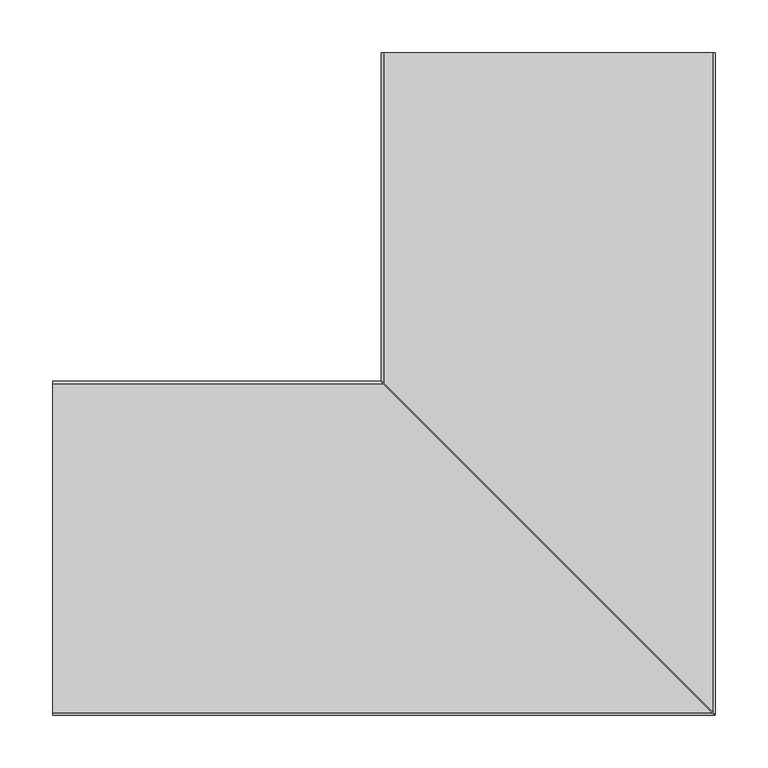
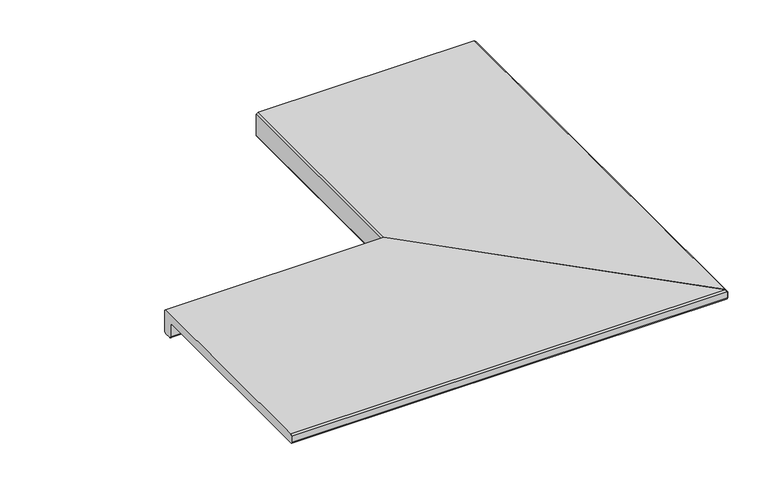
"""IFC4 building model written with IfcOpenShell, lengths in millimetres: proxy geometry, ROSA GRES_E62 : Pieza E62_Pietro_White_Anti-Slip."""

import ifcopenshell
import ifcopenshell.guid

model = None  # the IFC model being written
_history = None  # IfcOwnerHistory: only IFC2X3 demands one
_inside = {}  # id of a spatial element -> (the spatial element, [elements in it])
_under = {}  # id of a project, library or spatial element -> (it, [spatial elements below it])
_declared = {}  # id of a project -> (the project, [libraries it declares])
_typed = {}  # id of a type object -> (the type object, [elements of that type])
_made_of = {}  # id of a material, layer set ... -> (it, [elements and type objects made of it])


def new_model(schema):
    """Start an empty IFC model of exactly this schema.

    Asked for "IFC4X3", IfcOpenShell would pick the latest addendum, in which some entities
    have other attributes; the version numbers below select the first issue.
    IFC2X3 requires an IfcOwnerHistory on every rooted entity: one is made here for all.
    """
    global model, _history
    if schema == "IFC4X3":
        model = ifcopenshell.file(schema_version=(4, 3, 0, 0))
    else:
        model = ifcopenshell.file(schema=schema)
    _inside.clear()
    _under.clear()
    _declared.clear()
    _typed.clear()
    _made_of.clear()
    _history = None
    if model.schema == "IFC2X3":
        org = make("IfcOrganization", Name="unknown")
        user = make(
            "IfcPersonAndOrganization",
            ThePerson=make("IfcPerson", FamilyName="unknown"),
            TheOrganization=org,
        )
        app = make(
            "IfcApplication",
            ApplicationDeveloper=org,
            Version="unknown",
            ApplicationFullName="unknown",
            ApplicationIdentifier="unknown",
        )
        _history = make(
            "IfcOwnerHistory",
            OwningUser=user,
            OwningApplication=app,
            ChangeAction="ADDED",
            CreationDate=0,
        )
    return model


def make(cls, **values):
    """One entity of the class cls with the attributes given. An attribute that is None is left unset."""
    return model.create_entity(
        cls, **{name: value for name, value in values.items() if value is not None}
    )


def rooted(cls, **values):
    """An entity with a GlobalId (a new one), such as an element, a storey or a relation."""
    return make(cls, GlobalId=ifcopenshell.guid.new(), OwnerHistory=_history, **values)


def si_unit(unit_type, name, prefix=None):
    """IfcSIUnit, for example si_unit("LENGTHUNIT", "METRE", prefix="MILLI")."""
    return make("IfcSIUnit", UnitType=unit_type, Prefix=prefix, Name=name)


def assignment(units):
    """IfcUnitAssignment: the units of a project."""
    return None if units is None else make("IfcUnitAssignment", Units=units)


def point(xyz):
    """IfcCartesianPoint."""
    return None if xyz is None else make("IfcCartesianPoint", Coordinates=xyz)


def direction(xyz):
    """IfcDirection."""
    return None if xyz is None else make("IfcDirection", DirectionRatios=xyz)


def frame(location, z_axis=None, x_axis=None):
    """IfcAxis2Placement3D, a coordinate frame: its origin and axes. An axis left out is left unset."""
    return make(
        "IfcAxis2Placement3D",
        Location=point(location),
        Axis=direction(z_axis),
        RefDirection=direction(x_axis),
    )


def origin():
    """The frame at (0, 0, 0) with its axes left unset."""
    return frame((0.0, 0.0, 0.0))


def place(relative_to, where):
    """IfcLocalPlacement: puts the frame where relative to a parent placement (None: the world)."""
    return make(
        "IfcLocalPlacement", PlacementRelTo=relative_to, RelativePlacement=where
    )


def context(
    kind, dimensions, precision=None, world=None, true_north=None, identifier=None
):
    """IfcGeometricRepresentationContext, for example the 3D "Model" context."""
    return make(
        "IfcGeometricRepresentationContext",
        ContextIdentifier=identifier,
        ContextType=kind,
        CoordinateSpaceDimension=dimensions,
        Precision=precision,
        WorldCoordinateSystem=world,
        TrueNorth=true_north,
    )


def project(units=None, contexts=None):
    """IfcProject with its units and contexts."""
    return rooted(
        "IfcProject",
        Name="project",
        RepresentationContexts=contexts,
        UnitsInContext=assignment(units),
    )


def spatial(cls, under=None, at=None, **own):
    """A site, building, storey or space (cls), placed at a placement, below another one or the project."""
    s = rooted(cls, ObjectPlacement=at, **own)
    if under is not None:
        _under.setdefault(under.id(), (under, []))[1].append(s)
    return s


def polyline(points):
    """IfcPolyline through the points."""
    return make("IfcPolyline", Points=[point(p) for p in points])


def circle_curve(where, radius):
    """IfcCircle in the frame where."""
    return make("IfcCircle", Position=where, Radius=radius)


def ellipse_curve(where, semi_axis1, semi_axis2):
    """IfcEllipse in the frame where."""
    return make(
        "IfcEllipse", Position=where, SemiAxis1=semi_axis1, SemiAxis2=semi_axis2
    )


def shape(context_of_items, identifier, shape_type, items):
    """IfcShapeRepresentation: the items that make up one representation, for example the "Body"."""
    return make(
        "IfcShapeRepresentation",
        ContextOfItems=context_of_items,
        RepresentationIdentifier=identifier,
        RepresentationType=shape_type,
        Items=items,
    )


def source(mapping_origin, context_of_items, identifier, shape_type, items):
    """IfcRepresentationMap: a shape defined once, which mapped items show again and again."""
    return make(
        "IfcRepresentationMap",
        MappingOrigin=mapping_origin,
        MappedRepresentation=shape(context_of_items, identifier, shape_type, items),
    )


def transform(
    local_origin,
    x_axis=None,
    y_axis=None,
    z_axis=None,
    scale=None,
    scale2=None,
    scale3=None,
    uniform=True,
):
    """IfcCartesianTransformationOperator3D, or its non-uniform kind. x_axis, y_axis, z_axis: its Axis1, 2, 3."""
    if uniform:
        return make(
            "IfcCartesianTransformationOperator3D",
            Axis1=direction(x_axis),
            Axis2=direction(y_axis),
            LocalOrigin=point(local_origin),
            Scale=scale,
            Axis3=direction(z_axis),
        )
    return make(
        "IfcCartesianTransformationOperator3DnonUniform",
        Axis1=direction(x_axis),
        Axis2=direction(y_axis),
        LocalOrigin=point(local_origin),
        Scale=scale,
        Axis3=direction(z_axis),
        Scale2=scale2,
        Scale3=scale3,
    )


def mapped(mapping_source, mapping_target):
    """IfcMappedItem: shows the shape of a source again, moved by a transform."""
    return make(
        "IfcMappedItem", MappingSource=mapping_source, MappingTarget=mapping_target
    )


def made_of(thing, what):
    """Note that an element or type object is made of a material, layer set ...; save() writes the relation."""
    if what is not None:
        _made_of.setdefault(what.id(), (what, []))[1].append(thing)
    return thing


def element(
    cls,
    number,
    at=None,
    inside=None,
    cuts=None,
    type_object=None,
    material=None,
    context=None,
    identifier="Body",
    shape_type=None,
    held_by="IfcProductDefinitionShape",
    body=None,
    shapes=None,
    **own,
):
    """One element of the class cls, such as IfcWall. Its Tag is "e" and its number.

    at: its placement. inside: the storey or other place that contains it. cuts: it is an
    opening in that element (IfcRelVoidsElement). A single representation is given by context,
    identifier, shape_type and body (its items); several are given by shapes. held_by: the class
    of the entity that holds the representations. save() writes the other relations.
    """
    e = rooted(cls, Tag="e%d" % number, ObjectPlacement=at, **own)
    if body is not None:
        shapes = [shape(context, identifier, shape_type, body)]
    if shapes is not None:
        e.Representation = make(held_by, Representations=shapes)
    if inside is not None:
        _inside.setdefault(inside.id(), (inside, []))[1].append(e)
    if cuts is not None:
        rooted(
            "IfcRelVoidsElement", RelatingBuildingElement=cuts, RelatedOpeningElement=e
        )
    if type_object is not None:
        _typed.setdefault(type_object.id(), (type_object, []))[1].append(e)
    return made_of(e, material)


def aggregate(whole, parts):
    """IfcRelAggregates: a whole, such as a stair, and the parts it consists of."""
    return rooted("IfcRelAggregates", RelatingObject=whole, RelatedObjects=parts)


def save(model, path):
    """Write the relations noted so far, then the file.

    IfcRelAggregates (storeys below a building ...), IfcRelContainedInSpatialStructure (elements
    in a storey), IfcRelDefinesByType, IfcRelAssociatesMaterial and IfcRelDeclares: one each for
    every whole, place, type object, material and project.
    """
    for whole, parts in _under.values():
        aggregate(whole, parts)
    for where, things in _inside.values():
        rooted(
            "IfcRelContainedInSpatialStructure",
            RelatedElements=things,
            RelatingStructure=where,
        )
    for kind, things in _typed.values():
        rooted("IfcRelDefinesByType", RelatedObjects=things, RelatingType=kind)
    for what, things in _made_of.values():
        rooted("IfcRelAssociatesMaterial", RelatedObjects=things, RelatingMaterial=what)
    for by, libraries in _declared.values():
        rooted("IfcRelDeclares", RelatingContext=by, RelatedDefinitions=libraries)
    model.write(path)


def plane_surface(at):
    """IfcPlane: the flat surface through the origin of the frame at, square to its z axis."""
    return make("IfcPlane", Position=at)


def cylinder_surface(at, radius):
    """IfcCylindricalSurface: all points at the distance radius from the z axis of the frame at."""
    return make("IfcCylindricalSurface", Position=at, Radius=radius)


def revolved_surface(curve, axis_point, axis_direction):
    """IfcSurfaceOfRevolution: the curve turned about the line through axis_point along axis_direction."""
    return make(
        "IfcSurfaceOfRevolution",
        SweptCurve=make("IfcArbitraryOpenProfileDef", ProfileType="CURVE", Curve=curve),
        AxisPosition=make("IfcAxis1Placement", Location=point(axis_point), Axis=direction(axis_direction)),
    )


def advanced_brep(points, edges, surfaces, faces):
    """IfcAdvancedBrep: a solid bounded by faces that lie on surfaces and meet in shared edges.

    An edge is (start, end): straight between two places in points (the first is 0);
    or (start, end, curve); or (start, end, curve, False) where it runs against its curve.
    A face is (place in surfaces, loops), or (place, loops, False) where it looks against
    its surface's normal. A loop lists edges by number (the first is 1), with a minus sign
    where the edge is run from its end to its start. The first loop is the outer one.
    """
    corners = [point(p) for p in points]
    vertices = [make("IfcVertexPoint", VertexGeometry=c) for c in corners]
    made = []
    for start, end, *more in edges:
        made.append(
            make(
                "IfcEdgeCurve",
                EdgeStart=vertices[start],
                EdgeEnd=vertices[end],
                EdgeGeometry=more[0] if more else make("IfcPolyline", Points=[corners[start], corners[end]]),
                SameSense=more[1] if len(more) > 1 else True,
            )
        )
    hull = []
    for where, loops, *sense in faces:
        bounds = []
        for j, loop in enumerate(loops):
            ring = [make("IfcOrientedEdge", EdgeElement=made[abs(k) - 1], Orientation=k > 0) for k in loop]
            bounds.append(
                make(
                    "IfcFaceOuterBound" if j == 0 else "IfcFaceBound",
                    Bound=make("IfcEdgeLoop", EdgeList=ring),
                    Orientation=True,
                )
            )
        hull.append(make("IfcAdvancedFace", Bounds=bounds, FaceSurface=surfaces[where], SameSense=sense[0] if sense else True))
    return make("IfcAdvancedBrep", Outer=make("IfcClosedShell", CfsFaces=hull))


def generic_models_a661fb60(model_context):
    return source(origin(), model_context, "Body", "AdvancedBrep", [
        advanced_brep(
        [(-625.5203405, 313.4938651, -34.5), (-625.5203405, 310.9938651, -37.0), (-625.5203405, 301.9938651, -37.0), (-625.5203405, 299.4938651, -34.5), (-625.5203405, 299.4938651, -16.5), (-625.5203405, 296.9938651, -14.0), (-625.5203405, -1.0061349, -14.0), (-625.5203405, -3.5061349, -11.5), (-625.5203405, -3.5061349, -2.5), (-625.5203405, -1.0061349, 0.0), (-625.5203405, 310.9938651, 0.0), (-625.5203405, 313.4938651, -2.5), (-314.1999893, 313.4938651, -2.5), (-314.1999893, 313.4938651, -34.5), (0.3000107, -1.0061349, 0.0), (-311.6999893, 310.9938651, 0.0), (2.8000107, -3.5061349, -11.5), (2.8000107, -3.5061349, -2.5), (0.3000107, -1.0061349, -14.0), (-297.6999893, 296.9938651, -14.0), (-300.1999893, 299.4938651, -16.5), (-300.1999893, 299.4938651, -34.5), (-302.6999893, 301.9938651, -37.0), (-311.6999893, 310.9938651, -37.0)],
        [
            (0, 1, circle_curve(frame((-625.5203405, 310.9938651, -34.5), z_axis=(-1.0, 0.0, 0.0), x_axis=(0.0, 0.0, -1.0)), 2.5)),
            (1, 2),
            (2, 3, circle_curve(frame((-625.5203405, 301.9938651, -34.5), z_axis=(-1.0, 0.0, 0.0), x_axis=(0.0, 0.0, -1.0)), 2.5)),
            (3, 4),
            (4, 5, circle_curve(frame((-625.5203405, 296.9938651, -16.5), z_axis=(1.0, 0.0, 0.0), x_axis=(0.0, 0.0, -1.0)), 2.5)),
            (5, 6),
            (6, 7, circle_curve(frame((-625.5203405, -1.0061349, -11.5), z_axis=(-1.0, 0.0, 0.0), x_axis=(0.0, 0.0, -1.0)), 2.5)),
            (7, 8),
            (8, 9),
            (9, 10),
            (10, 11),
            (11, 0),
            (11, 12),
            (12, 13),
            (13, 0),
            (9, 14),
            (14, 15),
            (15, 10),
            (7, 16),
            (16, 17),
            (17, 8),
            (6, 18),
            (18, 16, ellipse_curve(frame((0.3000107, -1.0061349, -11.5), z_axis=(-0.707106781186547, -0.7071067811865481, 0.0), x_axis=(-0.7071067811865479, 0.7071067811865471, 0.0)), 3.5355339, 2.5)),
            (5, 19),
            (19, 18),
            (4, 20),
            (20, 19, ellipse_curve(frame((-297.6999893, 296.9938651, -16.5), z_axis=(0.707106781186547, 0.7071067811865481, 0.0), x_axis=(0.7071067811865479, -0.7071067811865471, 0.0)), 3.5355339, 2.5)),
            (3, 21),
            (21, 20),
            (2, 22),
            (22, 21, ellipse_curve(frame((-302.6999893, 301.9938651, -34.5), z_axis=(-0.707106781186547, -0.7071067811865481, 0.0), x_axis=(-0.7071067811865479, 0.7071067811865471, 0.0)), 3.5355339, 2.5)),
            (13, 23, ellipse_curve(frame((-311.6999893, 310.9938651, -34.5), z_axis=(-0.707106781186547, -0.7071067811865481, 0.0), x_axis=(-0.7071067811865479, 0.7071067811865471, 0.0)), 3.5355339, 2.5)),
            (23, 1),
            (12, 15),
            (14, 17),
            (22, 23),
        ],
        [
            plane_surface(frame((-625.5203405, -0.4796595, 0.0), z_axis=(-1.0, 0.0, 0.0), x_axis=(0.0, 0.0, 1.0))),
            plane_surface(frame((-625.5203405, 313.4938651, -34.5), z_axis=(0.0, 1.0, 0.0), x_axis=(1.0, 0.0, 0.0))),
            plane_surface(frame((-625.5203405, 310.9938651, 0.0), z_axis=(0.0, 0.0, 1.0), x_axis=(1.0, 0.0, 0.0))),
            plane_surface(frame((-625.5203405, -3.5061349, -2.5), z_axis=(0.0, -1.0, 0.0), x_axis=(1.0, 0.0, 0.0))),
            cylinder_surface(frame((-625.5203405, -1.0061349, -11.5), z_axis=(-1.0, 0.0, 0.0), x_axis=(0.0, 0.0, -1.0)), 2.5),
            plane_surface(frame((-625.5203405, -1.0061349, -14.0), z_axis=(0.0, 0.0, -1.0), x_axis=(1.0, 0.0, 0.0))),
            revolved_surface(polyline([(-295.1999893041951, 296.9938651, -19.0), (-625.5203405, 296.9938651, -19.0)]), (-625.5203405, 296.9938651, -16.5), (1.0, 0.0, 0.0)),
            plane_surface(frame((-625.5203405, 299.4938651, -16.5), z_axis=(0.0, -1.0, 0.0), x_axis=(1.0, 0.0, 0.0))),
            cylinder_surface(frame((-625.5203405, 301.9938651, -34.5), z_axis=(-1.0, 0.0, 0.0), x_axis=(0.0, 0.0, -1.0)), 2.5),
            cylinder_surface(frame((-625.5203405, 310.9938651, -34.5), z_axis=(-1.0, 0.0, 0.0), x_axis=(0.0, 0.0, -1.0)), 2.5),
            plane_surface(frame((4.4516618, -5.157786, 20.0), z_axis=(0.707106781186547, 0.7071067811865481, 0.0), x_axis=(0.0, 0.0, -1.0))),
            plane_surface(frame((-625.5203405, 313.4938651, -2.5), z_axis=(0.0, 0.707106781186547, 0.7071067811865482), x_axis=(1.0, 0.0, 0.0))),
            plane_surface(frame((-625.5203405, -1.0061349, 0.0), z_axis=(0.0, -0.707106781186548, 0.707106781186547), x_axis=(1.0, 0.0, 0.0))),
            plane_surface(frame((-625.5203405, 301.9938651, -37.0), z_axis=(0.0, 0.0, -1.0), x_axis=(1.0, 0.0, 0.0))),
        ],
        [
            (0, [[1, 2, 3, 4, 5, 6, 7, 8, 9, 10, 11, 12]]),
            (1, [[13, 14, 15, -12]]),
            (2, [[16, 17, 18, -10]]),
            (3, [[19, 20, 21, -8]]),
            (4, [[22, 23, -19, -7]]),
            (5, [[24, 25, -22, -6]]),
            (6, [[26, 27, -24, -5]]),
            (7, [[28, 29, -26, -4]]),
            (8, [[30, 31, -28, -3]]),
            (9, [[-15, 32, 33, -1]]),
            (10, [[34, -17, 35, -20, -23, -25, -27, -29, -31, 36, -32, -14]]),
            (11, [[-18, -34, -13, -11]]),
            (12, [[-21, -35, -16, -9]]),
            (13, [[-33, -36, -30, -2]]),
        ],
    ),
        advanced_brep(
        [(-313.4938651, 625.5203405, -34.5), (-313.4938651, 625.5203405, -2.5), (-310.9938651, 625.5203405, 0.0), (1.0061349, 625.5203405, 0.0), (3.5061349, 625.5203405, -2.5), (3.5061349, 625.5203405, -11.5), (1.0061349, 625.5203405, -14.0), (-296.9938651, 625.5203405, -14.0), (-299.4938651, 625.5203405, -16.5), (-299.4938651, 625.5203405, -34.5), (-301.9938651, 625.5203405, -37.0), (-310.9938651, 625.5203405, -37.0), (-310.9938651, 311.7019544, 0.0), (1.0061349, -0.2980456, 0.0), (1.0061349, -0.2980456, -14.0), (-296.9938651, 297.7019544, -14.0), (-313.4938651, 314.2019544, -34.5), (-313.4938651, 314.2019544, -2.5), (3.5061349, -2.7980456, -2.5), (3.5061349, -2.7980456, -11.5), (-299.4938651, 300.2019544, -16.5), (-299.4938651, 300.2019544, -34.5), (-301.9938651, 302.7019544, -37.0), (-310.9938651, 311.7019544, -37.0)],
        [
            (0, 1),
            (1, 2),
            (2, 3),
            (3, 4),
            (4, 5),
            (5, 6, circle_curve(frame((1.0061349, 625.5203405, -11.5), z_axis=(0.0, 1.0, 0.0), x_axis=(0.0, 0.0, -1.0)), 2.5)),
            (6, 7),
            (7, 8, circle_curve(frame((-296.9938651, 625.5203405, -16.5), z_axis=(0.0, -1.0, 0.0), x_axis=(0.0, 0.0, -1.0)), 2.5)),
            (8, 9),
            (9, 10, circle_curve(frame((-301.9938651, 625.5203405, -34.5), z_axis=(0.0, 1.0, 0.0), x_axis=(0.0, 0.0, -1.0)), 2.5)),
            (10, 11),
            (11, 0, circle_curve(frame((-310.9938651, 625.5203405, -34.5), z_axis=(0.0, 1.0, 0.0), x_axis=(0.0, 0.0, -1.0)), 2.5)),
            (2, 12),
            (12, 13),
            (13, 3),
            (6, 14),
            (14, 15),
            (15, 7),
            (0, 16),
            (16, 17),
            (17, 1),
            (4, 18),
            (18, 19),
            (19, 5),
            (19, 14, ellipse_curve(frame((1.0061349, -0.2980456, -11.5), z_axis=(0.7071067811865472, 0.7071067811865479, 0.0), x_axis=(0.7071067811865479, -0.7071067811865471, 0.0)), 3.5355339, 2.5)),
            (15, 20, ellipse_curve(frame((-296.9938651, 297.7019544, -16.5), z_axis=(-0.7071067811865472, -0.7071067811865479, 0.0), x_axis=(-0.7071067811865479, 0.7071067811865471, 0.0)), 3.5355339, 2.5)),
            (20, 8),
            (20, 21),
            (21, 9),
            (21, 22, ellipse_curve(frame((-301.9938651, 302.7019544, -34.5), z_axis=(0.7071067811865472, 0.7071067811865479, 0.0), x_axis=(0.7071067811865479, -0.7071067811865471, 0.0)), 3.5355339, 2.5)),
            (22, 10),
            (11, 23),
            (23, 16, ellipse_curve(frame((-310.9938651, 311.7019544, -34.5), z_axis=(0.7071067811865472, 0.7071067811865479, 0.0), x_axis=(0.7071067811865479, -0.7071067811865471, 0.0)), 3.5355339, 2.5)),
            (12, 17),
            (23, 22),
            (18, 13),
        ],
        [
            plane_surface(frame((0.4796595, 625.5203405, 0.0), z_axis=(0.0, 1.0, 0.0), x_axis=(0.0, 0.0, 1.0))),
            plane_surface(frame((-625.5203405, 310.9938651, 0.0), z_axis=(0.0, 0.0, 1.0), x_axis=(1.0, 0.0, 0.0))),
            plane_surface(frame((-625.5203405, -1.0061349, -14.0), z_axis=(0.0, 0.0, -1.0), x_axis=(1.0, 0.0, 0.0))),
            plane_surface(frame((-313.4938651, 313.4938651, -34.5), z_axis=(-1.0, 0.0, 0.0), x_axis=(0.0, 1.0, 0.0))),
            plane_surface(frame((3.5061349, -3.5061349, -2.5), z_axis=(1.0, 0.0, 0.0), x_axis=(0.0, 1.0, 0.0))),
            cylinder_surface(frame((1.0061349, -0.4796595, -11.5), z_axis=(0.0, -1.0, 0.0), x_axis=(0.0, 0.0, -1.0)), 2.5),
            revolved_surface(polyline([(-296.9938651, 625.5203405, -19.0), (-296.9938651, 295.2019544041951, -19.0)]), (-296.9938651, -0.4796595, -16.5), (0.0, 1.0, 0.0)),
            plane_surface(frame((-299.4938651, 299.4938651, -16.5), z_axis=(1.0, 0.0, 0.0), x_axis=(0.0, 1.0, 0.0))),
            cylinder_surface(frame((-301.9938651, -0.4796595, -34.5), z_axis=(0.0, -1.0, 0.0), x_axis=(0.0, 0.0, -1.0)), 2.5),
            cylinder_surface(frame((-310.9938651, -0.4796595, -34.5), z_axis=(0.0, -1.0, 0.0), x_axis=(0.0, 0.0, -1.0)), 2.5),
            plane_surface(frame((-314.6260927, 315.3341821, 20.0), z_axis=(-0.7071067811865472, -0.7071067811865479, 0.0), x_axis=(0.0, 0.0, -1.0))),
            plane_surface(frame((-313.4938651, 313.4938651, -2.5), z_axis=(-0.707106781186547, 0.0, 0.7071067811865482), x_axis=(0.0, 1.0, 0.0))),
            plane_surface(frame((1.0061349, -1.0061349, 0.0), z_axis=(0.707106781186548, 0.0, 0.707106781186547), x_axis=(0.0, 1.0, 0.0))),
            plane_surface(frame((-625.5203405, 301.9938651, -37.0), z_axis=(0.0, 0.0, -1.0), x_axis=(1.0, 0.0, 0.0))),
        ],
        [
            (0, [[1, 2, 3, 4, 5, 6, 7, 8, 9, 10, 11, 12]]),
            (1, [[13, 14, 15, -3]]),
            (2, [[16, 17, 18, -7]]),
            (3, [[19, 20, 21, -1]]),
            (4, [[22, 23, 24, -5]]),
            (5, [[-24, 25, -16, -6]]),
            (6, [[-18, 26, 27, -8]]),
            (7, [[-27, 28, 29, -9]]),
            (8, [[-29, 30, 31, -10]]),
            (9, [[32, 33, -19, -12]]),
            (10, [[34, -20, -33, 35, -30, -28, -26, -17, -25, -23, 36, -14]]),
            (11, [[-21, -34, -13, -2]]),
            (12, [[-15, -36, -22, -4]]),
            (13, [[-31, -35, -32, -11]]),
        ],
    ),
    ])


if __name__ == "__main__":
    model = new_model("IFC4")
    model_context = context("Model", 3, world=origin())
    ifc_project = project(units=[si_unit("LENGTHUNIT", "METRE", prefix="MILLI")], contexts=[model_context])
    site = spatial("IfcSite", under=ifc_project)
    building = spatial("IfcBuilding", under=site)
    placement = place(None, origin())
    generic_models_shape = generic_models_a661fb60(model_context)
    element("IfcBuildingElementProxy", 1, Name="ROSA GRES_E62 : Pieza E62_Pietro_White_Anti-Slip", ObjectType="ROSA GRES_E62 : Pieza E62_Pietro_White_Anti-Slip", at=placement, inside=building, context=model_context, shape_type="MappedRepresentation", body=[
        mapped(generic_models_shape, transform((0.0, 0.0, 0.0), x_axis=(1.0, 0.0, 0.0), y_axis=(0.0, 1.0, 0.0), z_axis=(0.0, 0.0, 1.0))),
    ])
    save(model, "model.ifc")
